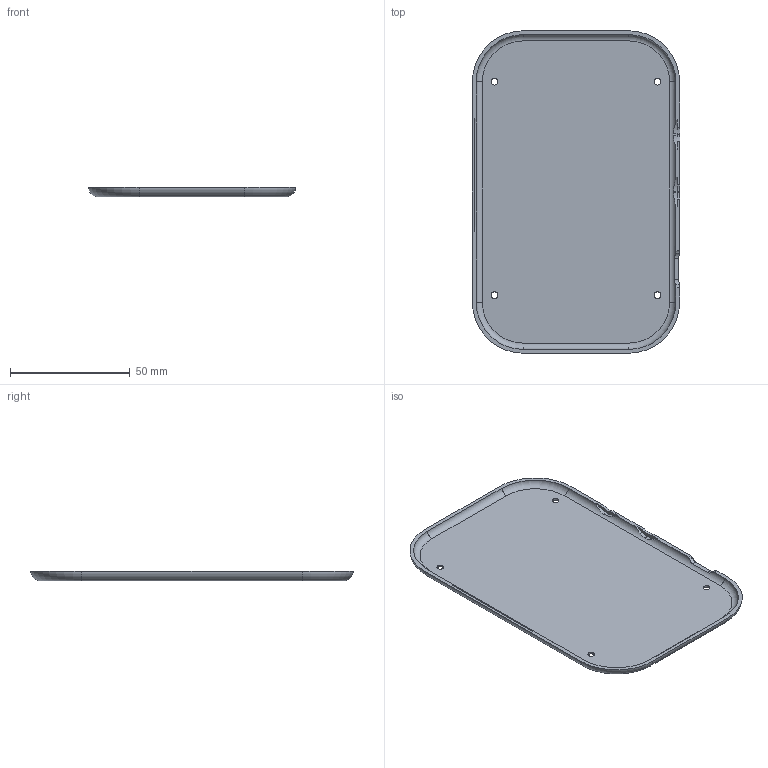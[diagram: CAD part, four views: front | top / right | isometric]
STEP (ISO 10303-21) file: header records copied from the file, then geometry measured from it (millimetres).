
FILE_DESCRIPTION(('Open CASCADE Model'),'2;1');
FILE_NAME('Open CASCADE Shape Model','2026-09-06T11:32:42',('Author'),( 'Open CASCADE'),'Open CASCADE STEP processor 7.7','Open CASCADE 7.7' ,'Unknown');
FILE_SCHEMA(('AUTOMOTIVE_DESIGN { 1 0 10303 214 1 1 1 1 }'));
Length unit declared in the file: millimetre
Products named in the file (1): Open CASCADE STEP translator 7.7 2
Bounding box: 86.4 x 134.4 x 4.15 mm (x, y, z)
Volume: 18412.8 mm3; surface area: 23997.8 mm2
Topology: 1 solids, 1 shells, 74 faces, 198 edges, 132 vertices
Faces by surface type: cylinder 38, plane 28, torus 8
Full cylindrical faces by diameter (mm): 2.8 x4, 5.3 x4
Entity records: 5625 total; most frequent: CARTESIAN_POINT 1795, DIRECTION 685, ORIENTED_EDGE 396, PCURVE 396, DEFINITIONAL_REPRESENTATION 396, LINE 368, VECTOR 368, EDGE_CURVE 198
